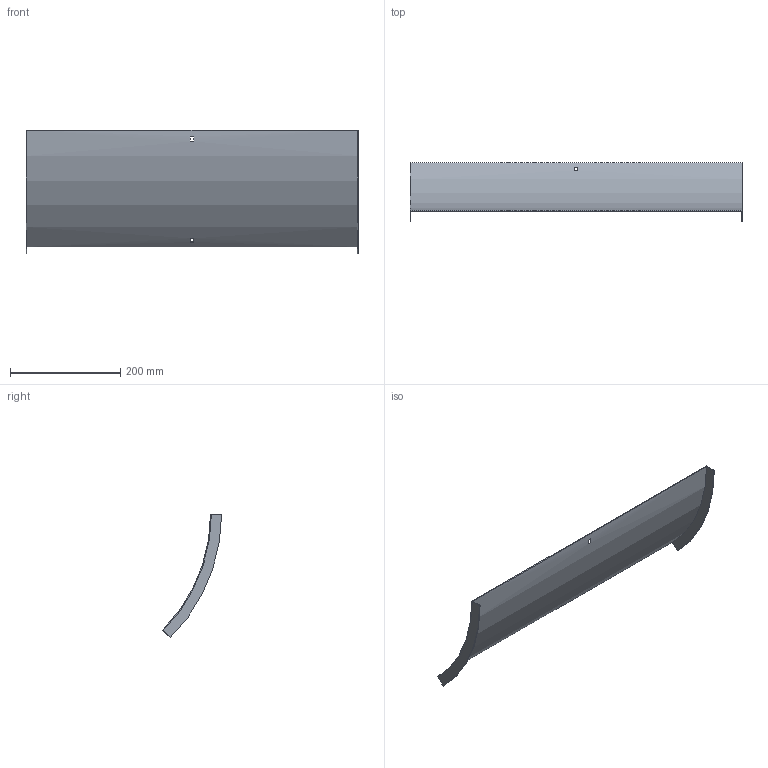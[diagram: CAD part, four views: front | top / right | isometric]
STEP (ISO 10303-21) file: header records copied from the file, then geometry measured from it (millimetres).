
FILE_DESCRIPTION (( 'STEP AP214' ), '1' );
FILE_NAME ('B2X31N3R600X.step', '2025-03-20T09:42:20', ( '' ), ( '' ), 'SwSTEP 2.0', 'SolidWorks 2023', '' );
FILE_SCHEMA (( 'AUTOMOTIVE_DESIGN' ));
Length unit declared in the file: millimetre
Products named in the file (1): B2X31N3R600X
Bounding box: 603 x 107.43 x 225.21 mm (x, y, z)
Volume: 225889.3 mm3; surface area: 303947.6 mm2
Topology: 1 solids, 1 shells, 18 faces, 48 edges, 32 vertices
Faces by surface type: plane 14, cylinder 4
Entity records: 599 total; most frequent: DIRECTION 102, CARTESIAN_POINT 99, ORIENTED_EDGE 96, EDGE_CURVE 48, AXIS2_PLACEMENT_3D 35, VECTOR 32, LINE 32, VERTEX_POINT 32
